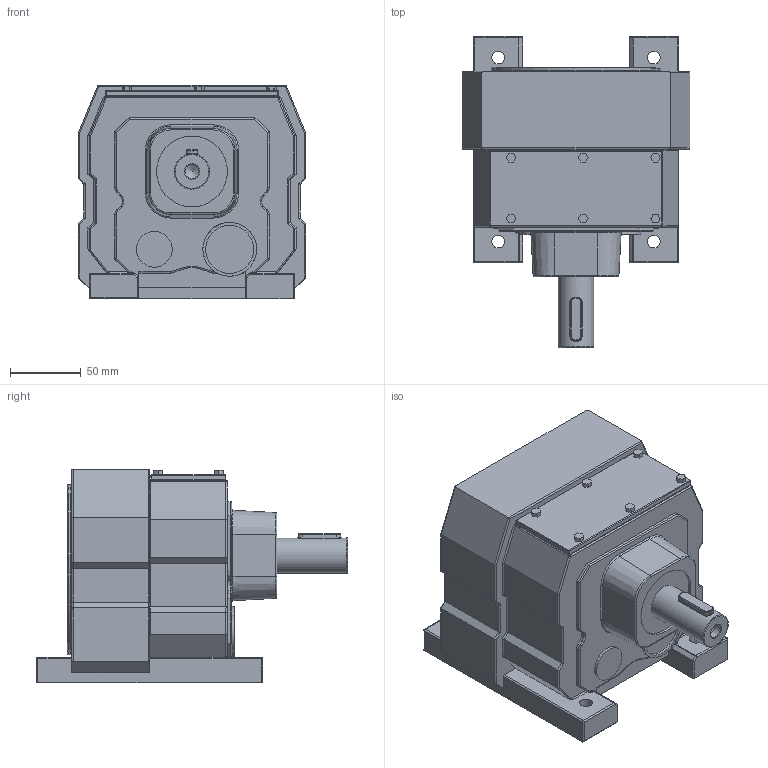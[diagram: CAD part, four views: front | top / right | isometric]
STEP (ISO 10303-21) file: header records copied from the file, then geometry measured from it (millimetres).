
FILE_DESCRIPTION((''),'2;1');
FILE_NAME('D:\PAWEŁ\ZLECENIA\2011 DualSystem\Przekładnie DR\DR30\STEP\DR30.stp','2012-06-11T11:52:31',('admin'),(''),'Autodesk Inventor 2009','Autodesk Inventor 2009','');
FILE_SCHEMA(('AUTOMOTIVE_DESIGN { 1 0 10303 214 1 1 1 1 }'));
Length unit declared in the file: millimetre
Products named in the file (1): DR30
Bounding box: 161 x 220 x 151 mm (x, y, z)
Volume: 2630161.6 mm3; surface area: 154029.5 mm2
Topology: 2 solids, 2 shells, 374 faces, 895 edges, 523 vertices
Faces by surface type: cylinder 164, plane 143, sphere 22, bspline 22, torus 19, cone 4
Full cylindrical faces by diameter (mm): 9 x4, 13 x4, 25 x1, 25.333 x1, 34 x1, 38 x1, 50 x1, 80 x1, 120 x1
Entity records: 12028 total; most frequent: CARTESIAN_POINT 3378, DIRECTION 1846, ORIENTED_EDGE 1688, EDGE_CURVE 844, AXIS2_PLACEMENT_3D 667, VERTEX_POINT 515, VECTOR 512, LINE 512
